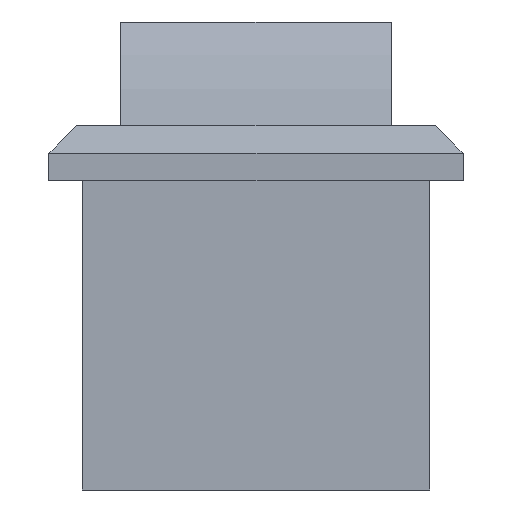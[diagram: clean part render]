
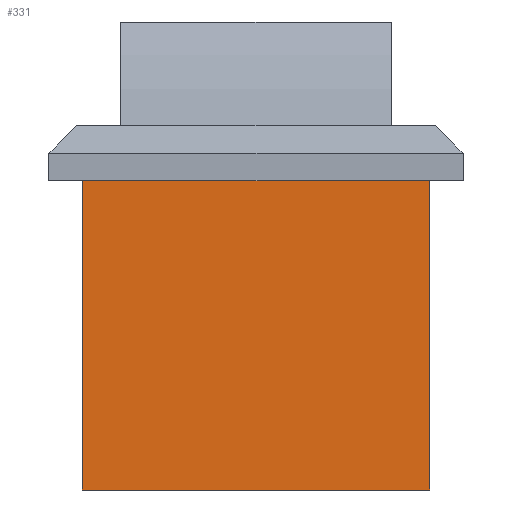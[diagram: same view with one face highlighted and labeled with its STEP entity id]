
A CAD part, left-side view. The second image highlights one B-rep face of the part: STEP entity #331.
In plain terms, the highlighted planar face has unit normal (-1, 0, 0).
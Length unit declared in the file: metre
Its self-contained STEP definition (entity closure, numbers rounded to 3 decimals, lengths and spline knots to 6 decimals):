
#70=ORIENTED_EDGE('',*,*,#138,.T.);
#71=ORIENTED_EDGE('',*,*,#139,.F.);
#72=ORIENTED_EDGE('',*,*,#140,.F.);
#73=ORIENTED_EDGE('',*,*,#111,.T.);
#111=EDGE_CURVE('',#156,#154,#183,.T.);
#138=EDGE_CURVE('',#154,#174,#206,.T.);
#139=EDGE_CURVE('',#175,#174,#207,.T.);
#140=EDGE_CURVE('',#156,#175,#208,.T.);
#154=VERTEX_POINT('',#478);
#156=VERTEX_POINT('',#481);
#174=VERTEX_POINT('',#537);
#175=VERTEX_POINT('',#539);
#183=LINE('',#480,#223);
#206=LINE('',#536,#246);
#207=LINE('',#538,#247);
#208=LINE('',#540,#248);
#223=VECTOR('',#386,1.);
#246=VECTOR('',#439,1.);
#247=VECTOR('',#440,1.);
#248=VECTOR('',#441,1.);
#271=EDGE_LOOP('',(#70,#71,#72,#73));
#293=FACE_BOUND('',#271,.T.);
#311=PLANE('',#368);
#331=ADVANCED_FACE('',(#293),#311,.F.);
#368=AXIS2_PLACEMENT_3D('',#535,#437,#438);
#386=DIRECTION('',(0.,1.,0.));
#437=DIRECTION('',(1.,0.,0.));
#438=DIRECTION('',(0.,0.,-1.));
#439=DIRECTION('',(0.,0.,-1.));
#440=DIRECTION('',(0.,1.,0.));
#441=DIRECTION('',(0.,0.,-1.));
#478=CARTESIAN_POINT('',(0.0012,0.0063,0.));
#480=CARTESIAN_POINT('',(0.0012,-0.0063,0.));
#481=CARTESIAN_POINT('',(0.0012,-0.0063,0.));
#535=CARTESIAN_POINT('',(0.0012,-0.0063,-0.0056));
#536=CARTESIAN_POINT('',(0.0012,0.0063,-0.0056));
#537=CARTESIAN_POINT('',(0.0012,0.0063,-0.0112));
#538=CARTESIAN_POINT('',(0.0012,-0.0063,-0.0112));
#539=CARTESIAN_POINT('',(0.0012,-0.0063,-0.0112));
#540=CARTESIAN_POINT('',(0.0012,-0.0063,-0.0056));
